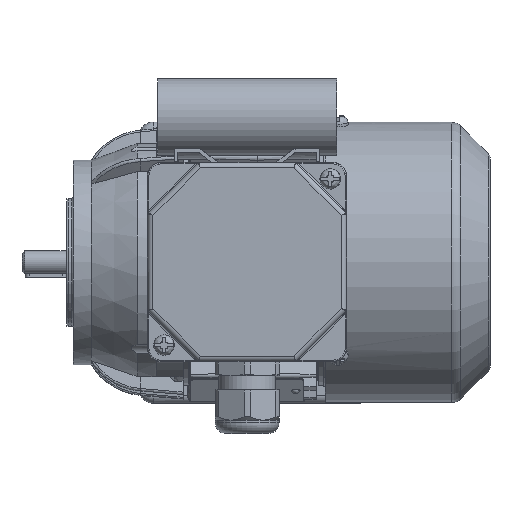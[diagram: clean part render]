
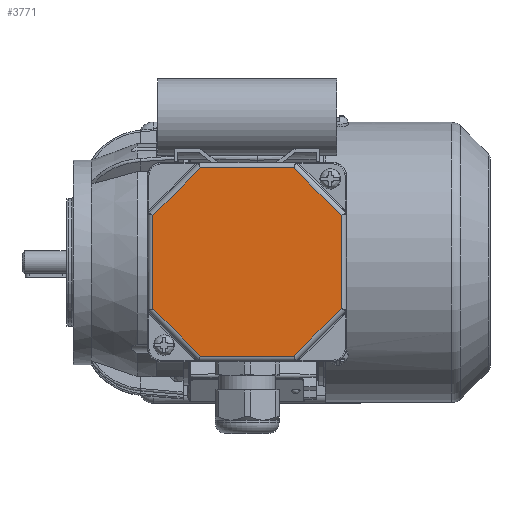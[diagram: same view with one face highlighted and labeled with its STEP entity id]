
A CAD part, top view. The second image highlights one B-rep face of the part: STEP entity #3771.
In plain terms, the highlighted planar face has unit normal (0, 0, 1).
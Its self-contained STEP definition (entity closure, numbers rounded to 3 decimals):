
#3771 = ADVANCED_FACE( '', ( #8238 ), #8239, .T. );
#8238 = FACE_OUTER_BOUND( '', #16673, .T. );
#8239 = PLANE( '', #16674 );
#16673 = EDGE_LOOP( '', ( #29523, #29524, #29525, #29526, #29527, #29528, #29529, #29530 ) );
#16674 = AXIS2_PLACEMENT_3D( '', #29531, #29532, #29533 );
#29523 = ORIENTED_EDGE( '', *, *, #42674, .T. );
#29524 = ORIENTED_EDGE( '', *, *, #39590, .T. );
#29525 = ORIENTED_EDGE( '', *, *, #42097, .T. );
#29526 = ORIENTED_EDGE( '', *, *, #42675, .T. );
#29527 = ORIENTED_EDGE( '', *, *, #42676, .T. );
#29528 = ORIENTED_EDGE( '', *, *, #40596, .T. );
#29529 = ORIENTED_EDGE( '', *, *, #42278, .T. );
#29530 = ORIENTED_EDGE( '', *, *, #42516, .T. );
#29531 = CARTESIAN_POINT( '', ( -39., 39., 12. ) );
#29532 = DIRECTION( '', ( 0., 0., 1. ) );
#29533 = DIRECTION( '', ( 1., 0., 0. ) );
#39590 = EDGE_CURVE( '', #46812, #46813, #46814, .T. );
#40596 = EDGE_CURVE( '', #46754, #48622, #48623, .T. );
#42097 = EDGE_CURVE( '', #46813, #49484, #51032, .F. );
#42278 = EDGE_CURVE( '', #48622, #51300, #51301, .F. );
#42516 = EDGE_CURVE( '', #51300, #51646, #51648, .T. );
#42674 = EDGE_CURVE( '', #51646, #46812, #51877, .F. );
#42675 = EDGE_CURVE( '', #49484, #51878, #51879, .T. );
#42676 = EDGE_CURVE( '', #51878, #46754, #51880, .F. );
#46754 = VERTEX_POINT( '', #56622 );
#46812 = VERTEX_POINT( '', #56714 );
#46813 = VERTEX_POINT( '', #56715 );
#46814 = LINE( '', #56716, #56717 );
#48622 = VERTEX_POINT( '', #59849 );
#48623 = LINE( '', #59850, #59851 );
#49484 = VERTEX_POINT( '', #61301 );
#51032 = LINE( '', #64054, #64055 );
#51300 = VERTEX_POINT( '', #64566 );
#51301 = LINE( '', #64567, #64568 );
#51646 = VERTEX_POINT( '', #65314 );
#51648 = LINE( '', #65316, #65317 );
#51877 = LINE( '', #66155, #66156 );
#51878 = VERTEX_POINT( '', #66157 );
#51879 = LINE( '', #66158, #66159 );
#51880 = LINE( '', #66160, #66161 );
#56622 = CARTESIAN_POINT( '', ( -36.825, -18.255, 12. ) );
#56714 = CARTESIAN_POINT( '', ( 36.825, 18.255, 12. ) );
#56715 = CARTESIAN_POINT( '', ( 18.255, 36.825, 12. ) );
#56716 = CARTESIAN_POINT( '', ( 17.679, 37.401, 12. ) );
#56717 = VECTOR( '', #73757, 1000. );
#59849 = CARTESIAN_POINT( '', ( -18.255, -36.825, 12. ) );
#59850 = CARTESIAN_POINT( '', ( -17.679, -37.401, 12. ) );
#59851 = VECTOR( '', #75245, 1000. );
#61301 = CARTESIAN_POINT( '', ( -18.255, 36.825, 12. ) );
#64054 = CARTESIAN_POINT( '', ( -19.069, 36.825, 12. ) );
#64055 = VECTOR( '', #77114, 1000. );
#64566 = CARTESIAN_POINT( '', ( 18.255, -36.825, 12. ) );
#64567 = CARTESIAN_POINT( '', ( 19.069, -36.825, 12. ) );
#64568 = VECTOR( '', #77324, 1000. );
#65314 = CARTESIAN_POINT( '', ( 36.825, -18.255, 12. ) );
#65316 = CARTESIAN_POINT( '', ( 37.401, -17.679, 12. ) );
#65317 = VECTOR( '', #77587, 1000. );
#66155 = CARTESIAN_POINT( '', ( 36.825, 19.069, 12. ) );
#66156 = VECTOR( '', #77757, 1000. );
#66157 = CARTESIAN_POINT( '', ( -36.825, 18.255, 12. ) );
#66158 = CARTESIAN_POINT( '', ( -37.401, 17.679, 12. ) );
#66159 = VECTOR( '', #77758, 1000. );
#66160 = CARTESIAN_POINT( '', ( -36.825, -19.069, 12. ) );
#66161 = VECTOR( '', #77759, 1000. );
#73757 = DIRECTION( '', ( -0.707, 0.707, 0. ) );
#75245 = DIRECTION( '', ( 0.707, -0.707, 0. ) );
#77114 = DIRECTION( '', ( 1., 0., 0. ) );
#77324 = DIRECTION( '', ( -1., 0., 0. ) );
#77587 = DIRECTION( '', ( 0.707, 0.707, 0. ) );
#77757 = DIRECTION( '', ( 0., -1., 0. ) );
#77758 = DIRECTION( '', ( -0.707, -0.707, 0. ) );
#77759 = DIRECTION( '', ( 0., 1., 0. ) );
